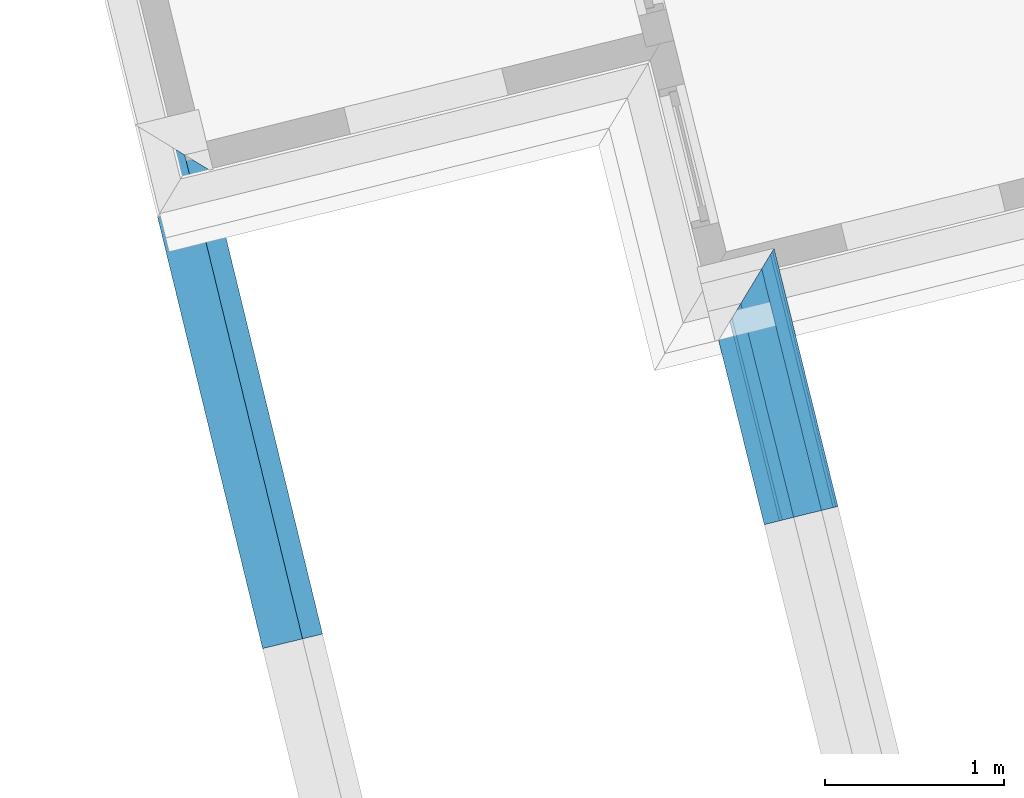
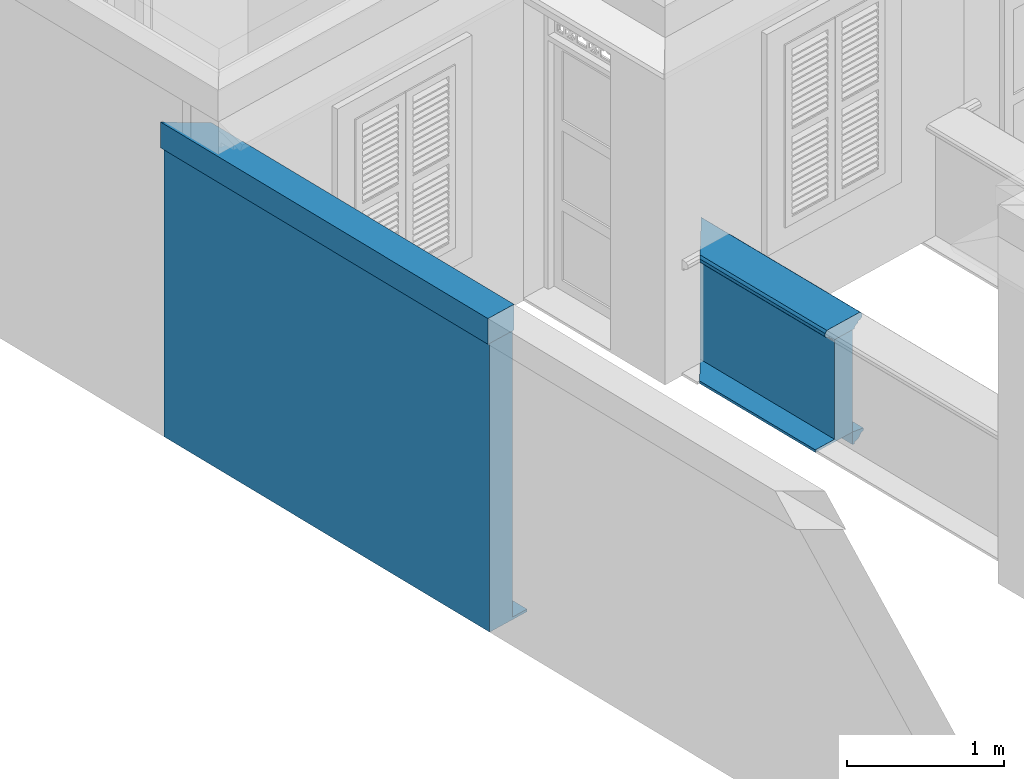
# One storey, part 3 of 15: 5 walls.
"""IFC4 building model written with IfcOpenShell, lengths in metres."""

from ifc_helpers import new_model, si_unit, frame, origin_with_axes, place, context, subcontext, project, spatial, polyline, outline, extrude, clip, halfspace, material_profile, profile_set, profile_usage, type_object, element, save


model = new_model("IFC4")

# Units and contexts
model_context = context("Model", 3, world=origin_with_axes())
body_context = subcontext(model_context, "Body", "Model", "MODEL_VIEW")
ifc_project = project(units=[si_unit("PLANEANGLEUNIT", "RADIAN"), si_unit("MASSUNIT", "GRAM", prefix="KILO"), si_unit("FORCEUNIT", "NEWTON", prefix="KILO"), si_unit("LENGTHUNIT", "METRE"), si_unit("AREAUNIT", "SQUARE_METRE"), si_unit("VOLUMEUNIT", "CUBIC_METRE")], contexts=[model_context, model_context])

# Site, building, storey
site_placement = place(None, origin_with_axes())
site = spatial("IfcSite", under=ifc_project, at=site_placement, Name="Site plot-5", CompositionType="ELEMENT")
building_placement = place(None, origin_with_axes())
building = spatial("IfcBuilding", under=site, at=building_placement, Name="Building plot-5", CompositionType="ELEMENT")
storey_placement = place(None, frame((0.0, 0.0, 3.45), z_axis=(0.0, 0.0, 1.0), x_axis=(1.0, 0.0, 0.0)))
storey = spatial("IfcBuildingStorey", under=building, at=storey_placement, Name="plot-5 1", CompositionType="ELEMENT", Elevation=3.45)

# Walls
ifc_material_profile_1 = material_profile(None, outline(polyline([(0.25, 0.0), (0.25, 2.245), (0.05, 2.245), (0.05, 0.02), (-0.08, 0.02), (-0.08, 0.0), (0.25, 0.0)])))
ifc_profile_set_1 = profile_set([ifc_material_profile_1])
ifc_profile_usage_1 = profile_usage(ifc_profile_set_1)
wall_type_1 = type_object("IfcWallType", Name="parapet party_0", PredefinedType="PARAPET", material=ifc_profile_set_1)
wall_1_placement = place(storey_placement, frame((16.0964177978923, 24.4068070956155, 0.0), z_axis=(-0.236608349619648, 0.971605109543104, 0.0), x_axis=(-0.971605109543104, -0.236608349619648, 0.0)))
element("IfcWall", 1, at=wall_1_placement, inside=storey, type_object=wall_type_1, material=ifc_profile_usage_1, Name="parapet party_0", context=body_context, shape_type="Clipping", body=[
    clip(clip(extrude(outline(polyline([(0.25, 0.0), (0.25, 2.245), (0.05, 2.245), (0.05, 0.02), (-0.08, 0.02), (-0.08, 0.0), (0.25, 0.0)])), origin_with_axes(), (0.0, 0.0, 1.0), 4.75330657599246), halfspace(frame((0.0, 0.0, 3.75330657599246), z_axis=(0.707106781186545, 0.0, -0.70710678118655), x_axis=(0.0, 1.0, 0.0)), True)), halfspace(frame((0.0, 0.0, 1.0), z_axis=(6.04901474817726e-16, 0.0, -1.0), x_axis=(0.0, 1.0, 0.0)), False)),
])
ifc_material_profile_2 = material_profile(None, outline(polyline([(0.265, 2.245), (0.265, 2.445), (0.035, 2.445), (0.035, 2.245), (0.265, 2.245)])))
ifc_profile_set_2 = profile_set([ifc_material_profile_2])
ifc_profile_usage_2 = profile_usage(ifc_profile_set_2)
wall_type_2 = type_object("IfcWallType", Name="parapet party_1", PredefinedType="PARAPET", material=ifc_profile_set_2)
wall_2_placement = place(storey_placement, frame((16.0964177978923, 24.4068070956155, 0.0), z_axis=(-0.236608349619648, 0.971605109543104, 0.0), x_axis=(-0.971605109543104, -0.236608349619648, 0.0)))
element("IfcWall", 2, at=wall_2_placement, inside=storey, type_object=wall_type_2, material=ifc_profile_usage_2, Name="parapet party_1", context=body_context, shape_type="Clipping", body=[
    clip(clip(extrude(outline(polyline([(0.265, 2.245), (0.265, 2.445), (0.035, 2.445), (0.035, 2.245), (0.265, 2.245)])), origin_with_axes(), (0.0, 0.0, 1.0), 4.75330657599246), halfspace(frame((0.0, 0.0, 3.75330657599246), z_axis=(0.707106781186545, 0.0, -0.70710678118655), x_axis=(0.0, 1.0, 0.0)), True)), halfspace(frame((0.0, 0.0, 1.0), z_axis=(6.04901474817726e-16, 0.0, -1.0), x_axis=(0.0, 1.0, 0.0)), False)),
])
ifc_material_profile_3 = material_profile(None, outline(polyline([(0.25, 0.0), (0.25, 0.795), (0.09, 0.795), (0.09, 0.02), (-0.08, 0.02), (-0.08, 0.0), (0.25, 0.0)])))
ifc_profile_set_3 = profile_set([ifc_material_profile_3])
ifc_profile_usage_3 = profile_usage(ifc_profile_set_3)
wall_type_3 = type_object("IfcWallType", Name="parapet internal_0", PredefinedType="PARAPET", material=ifc_profile_set_3)
wall_3_placement = place(storey_placement, frame((17.9731684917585, 28.1098074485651, 0.0), z_axis=(0.240250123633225, -0.970711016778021, 0.0), x_axis=(0.970711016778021, 0.240250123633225, 0.0)))
element("IfcWall", 3, at=wall_3_placement, inside=storey, type_object=wall_type_3, material=ifc_profile_usage_3, Name="parapet internal_0", context=body_context, shape_type="Clipping", body=[
    clip(clip(extrude(outline(polyline([(0.25, 0.0), (0.25, 0.795), (0.09, 0.795), (0.09, 0.02), (-0.08, 0.02), (-0.08, 0.0), (0.25, 0.0)])), origin_with_axes(), (0.0, 0.0, 1.0), 3.14366068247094), halfspace(frame((0.0, 0.0, 2.14366068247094), z_axis=(4.82374896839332e-15, 0.0, -1.0), x_axis=(0.0, 1.0, 0.0)), True)), halfspace(frame((0.0, 0.0, 1.0), z_axis=(-0.707106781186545, 0.0, -0.70710678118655), x_axis=(0.0, 1.0, 0.0)), False)),
])
ifc_material_profile_4 = material_profile(None, outline(polyline([(0.265, 0.795), (0.268, 0.807), (0.274, 0.816), (0.283, 0.822), (0.295, 0.825), (0.295, 0.84), (0.305, 0.84), (0.317, 0.842), (0.326, 0.849), (0.333, 0.858), (0.335, 0.87), (0.333, 0.882), (0.326, 0.891), (0.317, 0.898), (0.305, 0.9), (0.035, 0.9), (0.023, 0.898), (0.014, 0.891), (0.007, 0.882), (0.005, 0.87), (0.007, 0.858), (0.014, 0.849), (0.023, 0.842), (0.035, 0.84), (0.045, 0.84), (0.045, 0.825), (0.057, 0.822), (0.066, 0.816), (0.072, 0.807), (0.075, 0.795), (0.265, 0.795)])))
ifc_profile_set_4 = profile_set([ifc_material_profile_4])
ifc_profile_usage_4 = profile_usage(ifc_profile_set_4)
wall_type_4 = type_object("IfcWallType", Name="parapet internal_1", PredefinedType="PARAPET", material=ifc_profile_set_4)
wall_4_placement = place(storey_placement, frame((17.9731684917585, 28.1098074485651, 0.0), z_axis=(0.240250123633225, -0.970711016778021, 0.0), x_axis=(0.970711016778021, 0.240250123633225, 0.0)))
element("IfcWall", 4, at=wall_4_placement, inside=storey, type_object=wall_type_4, material=ifc_profile_usage_4, Name="parapet internal_1", context=body_context, shape_type="Clipping", body=[
    clip(clip(extrude(outline(polyline([(0.265, 0.795), (0.268, 0.807), (0.274, 0.816), (0.283, 0.822), (0.295, 0.825), (0.295, 0.84), (0.305, 0.84), (0.317, 0.842), (0.326, 0.849), (0.333, 0.858), (0.335, 0.87), (0.333, 0.882), (0.326, 0.891), (0.317, 0.898), (0.305, 0.9), (0.035, 0.9), (0.023, 0.898), (0.014, 0.891), (0.007, 0.882), (0.005, 0.87), (0.007, 0.858), (0.014, 0.849), (0.023, 0.842), (0.035, 0.84), (0.045, 0.84), (0.045, 0.825), (0.057, 0.822), (0.066, 0.816), (0.072, 0.807), (0.075, 0.795), (0.265, 0.795)])), origin_with_axes(), (0.0, 0.0, 1.0), 3.14366068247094), halfspace(frame((0.0, 0.0, 2.14366068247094), z_axis=(4.82374896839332e-15, 0.0, -1.0), x_axis=(0.0, 1.0, 0.0)), True)), halfspace(frame((0.0, 0.0, 1.0), z_axis=(-0.707106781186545, 0.0, -0.70710678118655), x_axis=(0.0, 1.0, 0.0)), False)),
])
ifc_material_profile_5 = material_profile(None, outline(polyline([(0.25, -0.1), (0.265, -0.1), (0.265, -0.085), (0.278, -0.084), (0.289, -0.081), (0.301, -0.074), (0.309, -0.065), (0.315, -0.055), (0.324, -0.044), (0.334, -0.038), (0.345, -0.035), (0.345, -0.015), (0.25, 0.0), (0.25, -0.1)])))
ifc_profile_set_5 = profile_set([ifc_material_profile_5])
ifc_profile_usage_5 = profile_usage(ifc_profile_set_5)
wall_type_5 = type_object("IfcWallType", Name="parapet internal_2", PredefinedType="PARAPET", material=ifc_profile_set_5)
wall_5_placement = place(storey_placement, frame((17.9731684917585, 28.1098074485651, 0.0), z_axis=(0.240250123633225, -0.970711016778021, 0.0), x_axis=(0.970711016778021, 0.240250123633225, 0.0)))
element("IfcWall", 5, at=wall_5_placement, inside=storey, type_object=wall_type_5, material=ifc_profile_usage_5, Name="parapet internal_2", context=body_context, shape_type="Clipping", body=[
    clip(clip(extrude(outline(polyline([(0.25, -0.1), (0.265, -0.1), (0.265, -0.085), (0.278, -0.084), (0.289, -0.081), (0.301, -0.074), (0.309, -0.065), (0.315, -0.055), (0.324, -0.044), (0.334, -0.038), (0.345, -0.035), (0.345, -0.015), (0.25, 0.0), (0.25, -0.1)])), origin_with_axes(), (0.0, 0.0, 1.0), 3.14366068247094), halfspace(frame((0.0, 0.0, 2.14366068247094), z_axis=(4.82374896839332e-15, 0.0, -1.0), x_axis=(0.0, 1.0, 0.0)), True)), halfspace(frame((0.0, 0.0, 1.0), z_axis=(-0.707106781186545, 0.0, -0.70710678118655), x_axis=(0.0, 1.0, 0.0)), False)),
])

save(model, "model.ifc")
